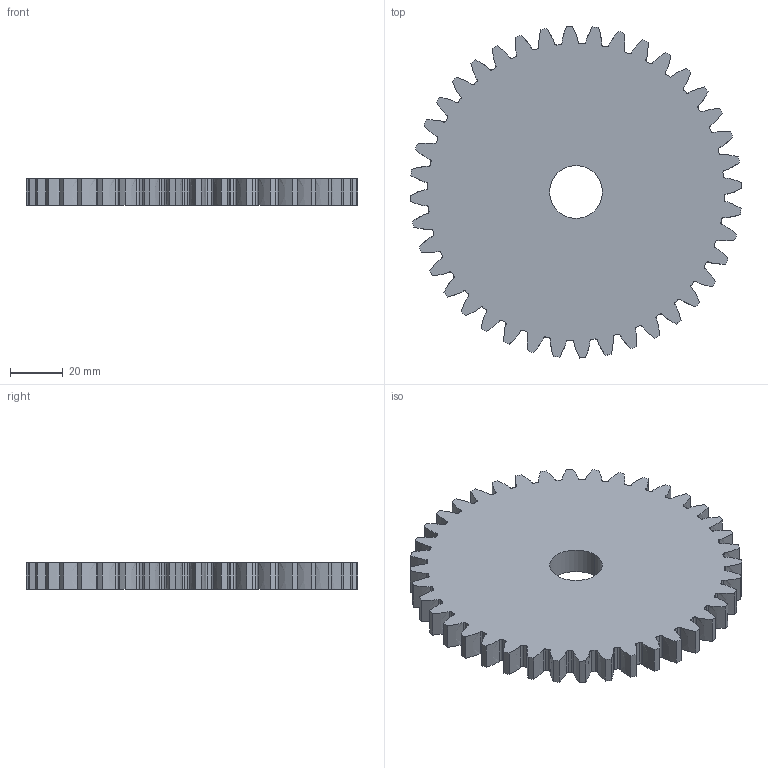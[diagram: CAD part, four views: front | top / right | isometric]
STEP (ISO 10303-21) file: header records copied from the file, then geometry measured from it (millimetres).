
FILE_DESCRIPTION (( 'STEP AP214' ), '1' );
FILE_NAME ('EngrenageDroit3PA9550.STEP', '2008-05-19T15:07:36', ( '' ), ( '' ), 'SwSTEP 2.0', 'SolidWorks 2005143', '' );
FILE_SCHEMA (( 'AUTOMOTIVE_DESIGN' ));
Length unit declared in the file: millimetre
Products named in the file (1): EngrenageDroit3PA9550
Bounding box: 125.97 x 125.97 x 10 mm (x, y, z)
Volume: 109073.8 mm3; surface area: 29940.8 mm2
Topology: 1 solids, 1 shells, 262 faces, 780 edges, 520 vertices
Faces by surface type: cylinder 180, bspline 80, plane 2
Entity records: 10591 total; most frequent: CARTESIAN_POINT 3723, ORIENTED_EDGE 1560, DIRECTION 1346, EDGE_CURVE 780, AXIS2_PLACEMENT_3D 543, VERTEX_POINT 520, CIRCLE 360, EDGE_LOOP 264
